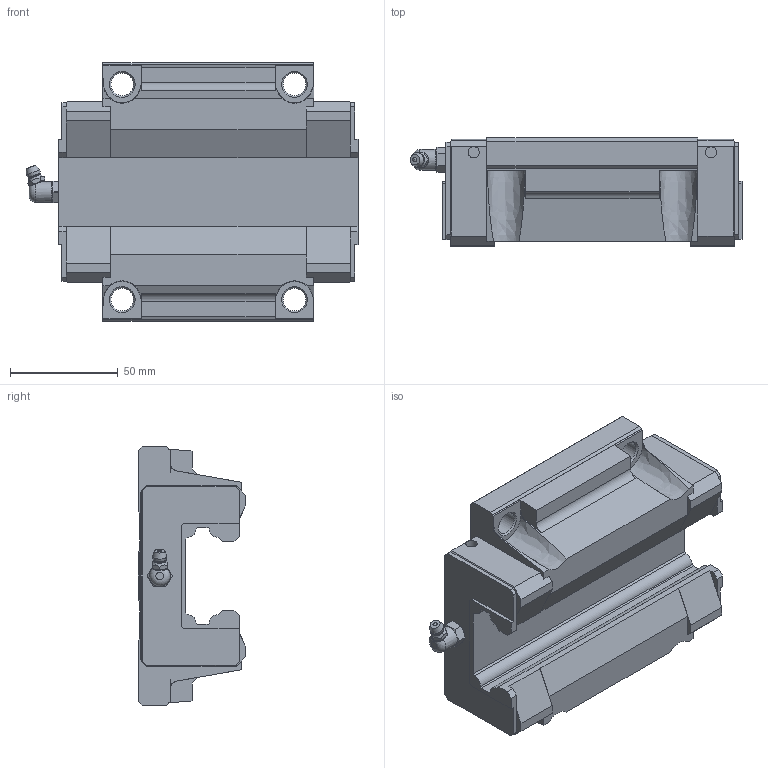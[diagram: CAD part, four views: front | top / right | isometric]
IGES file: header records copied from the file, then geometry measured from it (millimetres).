
Start section: Data from Parasolid IGES Translator 26.0.171, Copyright(c) 2006 Siemens PLM Software. All Rights Reserved.
Global section: file name: HSR45C1SS(GK) BLOCK(1B-PT1_8).igs; native system: By Siemens PLM Incorporated; preprocessor: XPlus GENERIC/IGES 26.0.171; author: Noname; organization: Noname; date: 20240521.045520; units: millimetre
Bounding box: 154.2 x 50 x 120 mm (x, y, z)
Surface area: 62047.6 mm2 (no closed solid volume)
Topology: 0 solids, 0 shells, 232 faces, 1305 edges, 1282 vertices
Faces by surface type: extrusion 171, revolution 61
